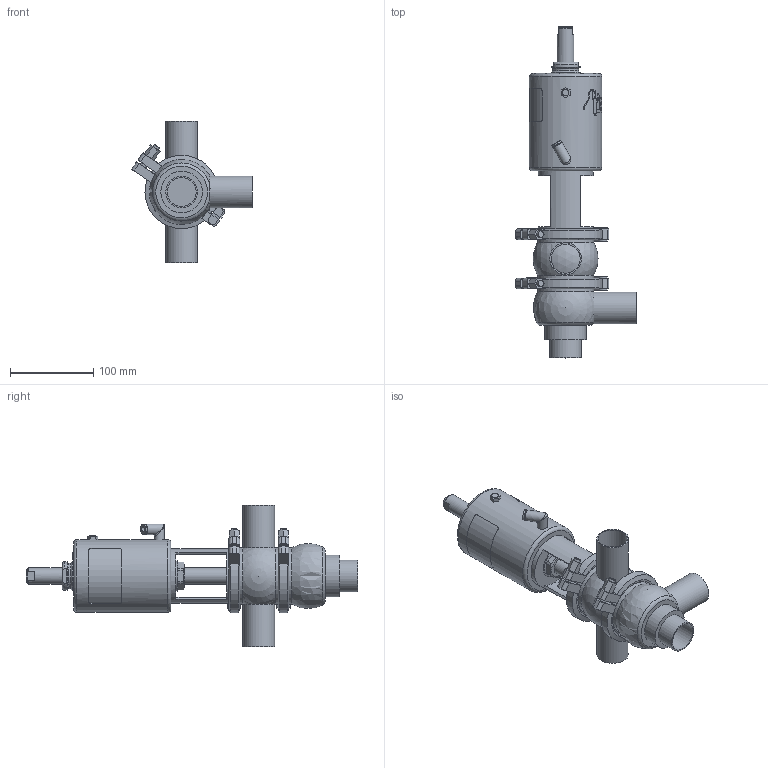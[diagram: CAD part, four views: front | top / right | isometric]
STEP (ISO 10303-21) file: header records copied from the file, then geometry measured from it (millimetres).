
FILE_DESCRIPTION (( 'STEP AP214' ), '1' );
FILE_NAME ('INNOVA K E W OD 1½ T1 AS NC_10.240.16.0022.STEP', '2024-08-06T10:53:05', ( '' ), ( '' ), 'SwSTEP 2.0', 'SolidWorks 2023', '' );
FILE_SCHEMA (( 'AUTOMOTIVE_DESIGN' ));
Length unit declared in the file: millimetre
Products named in the file (6): INNOVA K E W OD 1½ T1 AS NC_10.240.16.0022; 10.240.15.0007_OD 1½"; 10.240.15.0002_OD 1½"; 10.240.15.0001_DN 040; 10.240.15.0010_DN 040; 10.240.15.0014_T1 AS P0
Assembly tree (6 placements, depth 2):
  INNOVA K E W OD 1½ T1 AS NC_10.240.16.0022
    10.240.15.0007_OD 1½"
    10.240.15.0002_OD 1½"
    10.240.15.0010_DN 040
    10.240.15.0014_T1 AS P0
    10.240.15.0001_DN 040  x2
Bounding box: 145.13 x 398.5 x 170 mm (x, y, z)
Volume: 1401387.9 mm3; surface area: 203826.7 mm2
Topology: 6 solids, 6 shells, 402 faces, 1056 edges, 691 vertices
Faces by surface type: plane 194, cylinder 91, bspline 80, cone 26, torus 6, sphere 5
Full cylindrical faces by diameter (mm): 6.15 x1, 8 x5, 8.5 x1, 10.5 x1, 12.5 x3, 16 x1, 20 x2, 31 x1, 34.5 x2, 34.8 x4, 36.5 x1, 38.1 x4, 50 x1, 66 x1, 67.5 x3, 79.5 x4, 87 x1
Entity records: 19689 total; most frequent: CARTESIAN_POINT 10322, ORIENTED_EDGE 1630, DIRECTION 1265, EDGE_CURVE 815, VERTEX_POINT 564, AXIS2_PLACEMENT_3D 488, EDGE_LOOP 431, FACE_OUTER_BOUND 385
